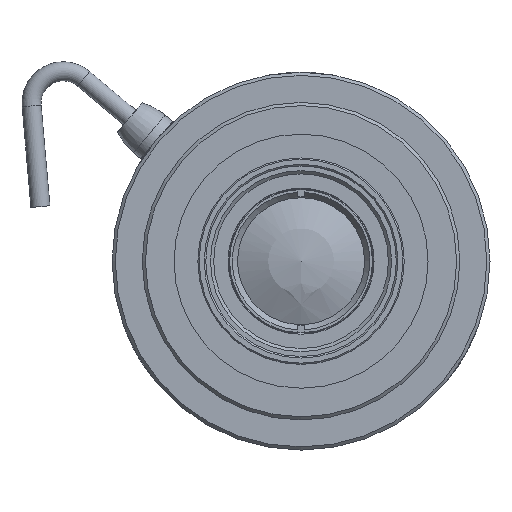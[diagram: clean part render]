
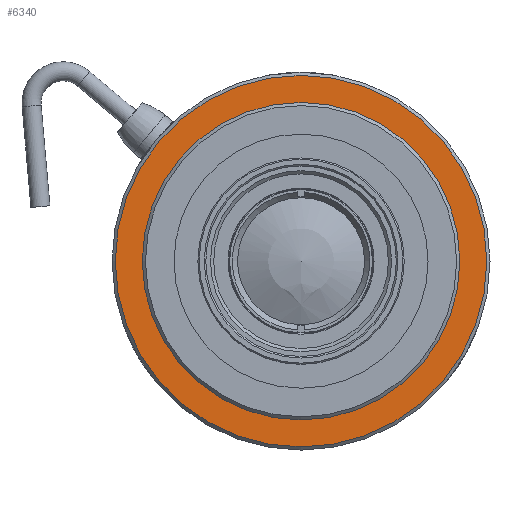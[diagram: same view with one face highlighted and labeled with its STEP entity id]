
A CAD part, front view. The second image highlights one B-rep face of the part: STEP entity #6340.
In plain terms, the highlighted planar face has unit normal (0, -1, 0).
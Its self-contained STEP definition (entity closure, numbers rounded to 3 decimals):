
#121=PLANE('',#6674);
#1318=ORIENTED_EDGE('',*,*,#2428,.F.);
#1319=ORIENTED_EDGE('',*,*,#2430,.T.);
#2428=EDGE_CURVE('',#2999,#2999,#3400,.T.);
#2430=EDGE_CURVE('',#3001,#3001,#3402,.T.);
#2999=VERTEX_POINT('',#8484);
#3001=VERTEX_POINT('',#8490);
#3400=CIRCLE('',#6671,29.25);
#3402=CIRCLE('',#6675,25.);
#3547=EDGE_LOOP('',(#1318));
#3548=EDGE_LOOP('',(#1319));
#3951=FACE_BOUND('',#3547,.T.);
#3952=FACE_BOUND('',#3548,.T.);
#6340=ADVANCED_FACE('',(#3951,#3952),#121,.F.);
#6671=AXIS2_PLACEMENT_3D('',#8483,#7184,#7185);
#6674=AXIS2_PLACEMENT_3D('',#8488,#7190,#7191);
#6675=AXIS2_PLACEMENT_3D('',#8489,#7192,#7193);
#7184=DIRECTION('',(0.,1.,0.));
#7185=DIRECTION('',(0.,0.,1.));
#7190=DIRECTION('',(0.,1.,0.));
#7191=DIRECTION('',(0.,0.,1.));
#7192=DIRECTION('',(0.,1.,0.));
#7193=DIRECTION('',(0.,0.,1.));
#8483=CARTESIAN_POINT('',(0.,-68.226,0.));
#8484=CARTESIAN_POINT('',(0.,-68.226,29.25));
#8488=CARTESIAN_POINT('',(0.,-68.226,29.75));
#8489=CARTESIAN_POINT('',(0.,-68.226,0.));
#8490=CARTESIAN_POINT('',(0.,-68.226,25.));
